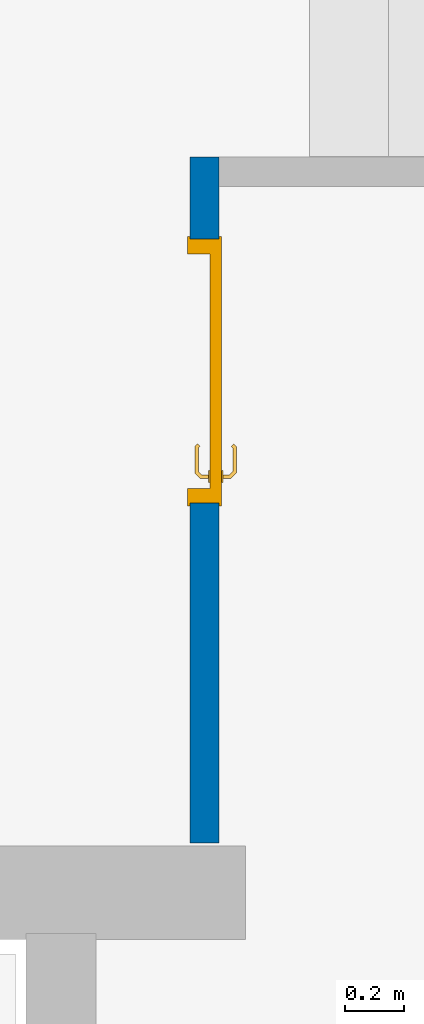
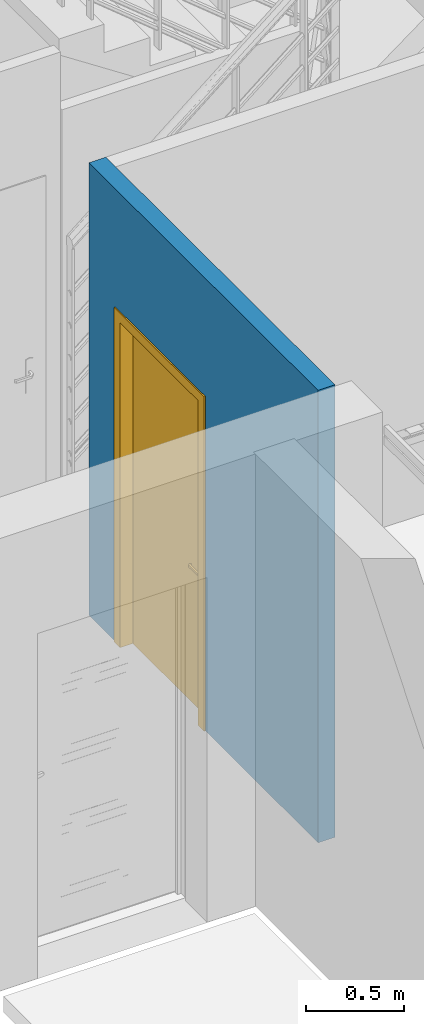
# One storey, part 15 of 30: 1 door, 1 wall, 1 opening.
"""IFC2X3 building model written with IfcOpenShell, lengths in metres."""

from ifc_helpers import new_model, entity, si_unit, converted_unit, derived_unit, direction, frame, frame_2d, origin, place, context, subcontext, project, spatial, rectangle, extrude, faceted_brep, source, transform, mapped, material, material_list, layer, layer_set, layer_usage, type_object, type_shapes, element, fill, save


model = new_model("IFC2X3")

# Units and contexts
model_context = context("Model", 3, precision=1e-05, world=origin(), true_north=direction((6.12303176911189e-17, 1.0)))
body_context = subcontext(model_context, "Body", "Model", "MODEL_VIEW")
ifc_project = project(units=[si_unit("LENGTHUNIT", "METRE"), si_unit("AREAUNIT", "SQUARE_METRE"), si_unit("VOLUMEUNIT", "CUBIC_METRE"), converted_unit("PLANEANGLEUNIT", "DEGREE", entity("IfcRatioMeasure", 0.0174532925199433), si_unit("PLANEANGLEUNIT", "RADIAN"), dimensions=[0, 0, 0, 0, 0, 0, 0]), si_unit("MASSUNIT", "GRAM", prefix="KILO"), derived_unit("MASSDENSITYUNIT", [(si_unit("MASSUNIT", "GRAM", prefix="KILO"), 1), (si_unit("LENGTHUNIT", "METRE"), -3)]), si_unit("TIMEUNIT", "SECOND"), si_unit("FREQUENCYUNIT", "HERTZ"), si_unit("THERMODYNAMICTEMPERATUREUNIT", "DEGREE_CELSIUS"), derived_unit("THERMALTRANSMITTANCEUNIT", [(si_unit("MASSUNIT", "GRAM", prefix="KILO"), 1), (si_unit("THERMODYNAMICTEMPERATUREUNIT", "KELVIN"), -1), (si_unit("TIMEUNIT", "SECOND"), -3)]), derived_unit("VOLUMETRICFLOWRATEUNIT", [(si_unit("LENGTHUNIT", "METRE"), 3), (si_unit("TIMEUNIT", "SECOND"), -1)]), si_unit("ELECTRICCURRENTUNIT", "AMPERE"), si_unit("ELECTRICVOLTAGEUNIT", "VOLT"), si_unit("POWERUNIT", "WATT"), si_unit("FORCEUNIT", "NEWTON", prefix="KILO"), si_unit("ILLUMINANCEUNIT", "LUX"), si_unit("LUMINOUSFLUXUNIT", "LUMEN"), si_unit("LUMINOUSINTENSITYUNIT", "CANDELA"), derived_unit("USERDEFINED", [(si_unit("MASSUNIT", "GRAM", prefix="KILO"), -1), (si_unit("LENGTHUNIT", "METRE"), -2), (si_unit("TIMEUNIT", "SECOND"), 3), (si_unit("LUMINOUSFLUXUNIT", "LUMEN"), 1)]), derived_unit("LINEARVELOCITYUNIT", [(si_unit("LENGTHUNIT", "METRE"), 1), (si_unit("TIMEUNIT", "SECOND"), -1)]), si_unit("PRESSUREUNIT", "PASCAL"), derived_unit("USERDEFINED", [(si_unit("LENGTHUNIT", "METRE"), -2), (si_unit("MASSUNIT", "GRAM", prefix="KILO"), 1), (si_unit("TIMEUNIT", "SECOND"), -2)])], contexts=[model_context])

# Site, building, storey
site_placement = place(None, origin())
site = spatial("IfcSite", under=ifc_project, at=site_placement, Name="Surface", CompositionType="ELEMENT")
building_placement = place(site_placement, origin())
building = spatial("IfcBuilding", under=site, at=building_placement, CompositionType="ELEMENT")
storey_placement = place(building_placement, origin())
storey = spatial("IfcBuildingStorey", under=building, at=storey_placement, Name="Plan des fondations  Maisons 1 et 2", CompositionType="ELEMENT", Elevation=0.0)

# Wall, opening, door
ifc_material_1 = material(Name="Peinture - Blanc")
ifc_layer = layer(ifc_material_1, 0.1)
ifc_layer_set = layer_set([ifc_layer], Name="Mur de base:Int.  Platre 100 mm en blanc 2")
ifc_layer_usage = layer_usage(ifc_layer_set, "AXIS2", "POSITIVE", -0.05)
wall_type = type_object("IfcWallType", Name="Mur de base:Int.  Platre 100 mm en blanc 2", PredefinedType="STANDARD", material=ifc_layer_set)
wall_placement = place(storey_placement, frame((80.7010189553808, 84.2575239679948, 0.0), z_axis=(0.0, 0.0, 1.0), x_axis=(0.0, 1.0, 0.0)))
wall = element("IfcWallStandardCase", 1, at=wall_placement, inside=storey, type_object=wall_type, material=ifc_layer_usage, Name="Mur de base:Int.  Platre 100 mm en blanc 2", ObjectType="Mur de base:Int.  Platre 100 mm en blanc 2", context=body_context, shape_type="SweptSolid", body=[
    extrude(rectangle(XDim=2.33999999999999, YDim=0.100000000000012, at=frame_2d((1.16999999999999, -3.77128883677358e-15), x_axis=(-1.0, 0.0))), origin(), (0.0, 0.0, 1.0), 2.82),
])
opening_placement = place(wall_placement, frame((2.05999999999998, 0.0500000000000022, 0.0)))
opening = element("IfcOpeningElement", 2, at=opening_placement, cuts=wall, Name="FR_Simple (R):83 x 204 - (80):1", ObjectType="Opening", context=body_context, shape_type="SweptSolid", body=[
    extrude(rectangle(XDim=2.075, YDim=0.9, at=frame_2d((1.0375, 0.45), x_axis=(1.0, 0.0))), frame((0.0, 0.0, 0.0), z_axis=(0.0, -1.0, 0.0), x_axis=(0.0, 0.0, 1.0)), (0.0, 0.0, 1.0), 0.1),
])
ifc_material_2 = material(Name="Poignée Porte")
ifc_material_3 = material(Name="Dormants Portes")
ifc_material_4 = material(Name="Panneaux Portes")
ifc_material_list_1 = material_list([ifc_material_2, ifc_material_3, ifc_material_4])
ifc_material_list_2 = material_list([ifc_material_2, ifc_material_3, ifc_material_4])
door_style = type_object("IfcDoorStyle", Name="83 x 204 - (80)", ConstructionType="NOTDEFINED", OperationType="SINGLE_SWING_LEFT", ParameterTakesPrecedence=False, Sizeable=False, material=ifc_material_list_2)
shared_shape = source(origin(), body_context, "Body", "Brep", [
    faceted_brep([(0.1003527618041, -0.0130000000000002, 0.766003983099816), (0.109999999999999, -0.0130000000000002, 0.770000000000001), (0.109999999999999, -0.0130000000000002, 0.980000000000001), (0.1003527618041, -0.0130000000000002, 0.983996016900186), (0.0899999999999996, -0.0130000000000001, 0.985358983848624), (0.0796472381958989, -0.0130000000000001, 0.983996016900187), (0.0699999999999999, -0.0130000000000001, 0.980000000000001), (0.0699999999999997, -0.0130000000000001, 0.770000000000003), (0.0796472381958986, -0.0130000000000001, 0.766003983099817), (0.0899999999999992, -0.0130000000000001, 0.764641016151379), (0.1003527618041, -0.00800000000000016, 0.983996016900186), (0.109999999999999, -0.00800000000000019, 0.980000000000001), (0.109999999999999, -0.00800000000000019, 0.770000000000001), (0.1003527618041, -0.00800000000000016, 0.766003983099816), (0.0899999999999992, -0.00800000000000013, 0.764641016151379), (0.0796472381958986, -0.00800000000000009, 0.766003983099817), (0.0699999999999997, -0.00800000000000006, 0.770000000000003), (0.0699999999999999, -0.00800000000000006, 0.980000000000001), (0.0796472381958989, -0.00800000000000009, 0.983996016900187), (0.0899999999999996, -0.00800000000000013, 0.985358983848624)], [[[0, 1, 2, 3, 4, 5, 6, 7, 8, 9]], [[10, 11, 12, 13, 14, 15, 16, 17, 18, 19]], [[16, 15, 8, 7]], [[8, 15, 14, 9]], [[14, 13, 0, 9]], [[13, 12, 1, 0]], [[2, 1, 12, 11]], [[11, 10, 3, 2]], [[3, 10, 19, 4]], [[19, 18, 5, 4]], [[18, 17, 6, 5]], [[7, 6, 17, 16]]]),
    faceted_brep([(0.1003527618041, 0.0319999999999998, 0.766003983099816), (0.109999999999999, 0.0319999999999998, 0.770000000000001), (0.109999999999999, 0.0319999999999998, 0.980000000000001), (0.1003527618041, 0.0319999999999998, 0.983996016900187), (0.0899999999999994, 0.0319999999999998, 0.985358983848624), (0.0796472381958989, 0.0319999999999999, 0.983996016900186), (0.0699999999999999, 0.0319999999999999, 0.980000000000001), (0.0700000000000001, 0.0319999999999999, 0.770000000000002), (0.0796472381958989, 0.0319999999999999, 0.766003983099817), (0.0899999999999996, 0.0319999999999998, 0.764641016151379), (0.1003527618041, 0.0369999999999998, 0.983996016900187), (0.109999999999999, 0.0369999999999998, 0.980000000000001), (0.11, 0.0369999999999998, 0.770000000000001), (0.1003527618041, 0.0369999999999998, 0.766003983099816), (0.0899999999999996, 0.0369999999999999, 0.764641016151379), (0.079647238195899, 0.0369999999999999, 0.766003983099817), (0.0699999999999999, 0.0369999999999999, 0.770000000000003), (0.0699999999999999, 0.0369999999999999, 0.980000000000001), (0.0796472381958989, 0.0369999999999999, 0.983996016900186), (0.0899999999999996, 0.0369999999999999, 0.985358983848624)], [[[0, 1, 2, 3, 4, 5, 6, 7, 8, 9]], [[10, 11, 12, 13, 14, 15, 16, 17, 18, 19]], [[11, 10, 3, 2]], [[3, 10, 19, 4]], [[19, 18, 5, 4]], [[18, 17, 6, 5]], [[7, 6, 17, 16]], [[16, 15, 8, 7]], [[8, 15, 14, 9]], [[14, 13, 0, 9]], [[13, 12, 1, 0]], [[2, 1, 12, 11]]]),
    faceted_brep([(0.0879747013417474, -0.0130000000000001, 0.907780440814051), (0.092025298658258, -0.0130000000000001, 0.907780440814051), (0.0960000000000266, -0.0130000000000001, 0.906999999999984), (0.0960000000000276, -0.0130000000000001, 0.893000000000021), (0.0920252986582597, -0.0130000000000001, 0.89221955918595), (0.0879747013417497, -0.0130000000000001, 0.892219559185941), (0.0839999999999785, -0.0130000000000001, 0.892999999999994), (0.0839999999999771, -0.0130000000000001, 0.90699999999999), (0.0839999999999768, -0.0406509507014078, 0.906999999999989), (0.0879747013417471, -0.0390045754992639, 0.907780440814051), (0.10402358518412, -0.0550534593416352, 0.907780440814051), (0.10570139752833, -0.0510028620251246, 0.907780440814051), (0.0920252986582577, -0.0373267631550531, 0.907780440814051), (0.19852181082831, -0.0473891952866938, 0.90778044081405), (0.195657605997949, -0.0445249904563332, 0.90778044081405), (0.189179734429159, -0.0510028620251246, 0.90778044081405), (0.19085754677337, -0.0550534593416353, 0.90778044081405), (0.096000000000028, -0.0356803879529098, 0.90699999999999), (0.0960000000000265, -0.0356803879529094, 0.893000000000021), (0.0920252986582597, -0.0373267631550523, 0.89221955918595), (0.105701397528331, -0.0510028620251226, 0.89221955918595), (0.104023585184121, -0.0550534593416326, 0.89221955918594), (0.0879747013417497, -0.0390045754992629, 0.89221955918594), (0.195657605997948, -0.044524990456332, 0.89221955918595), (0.198521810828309, -0.0473891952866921, 0.89221955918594), (0.190857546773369, -0.0550534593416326, 0.89221955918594), (0.189179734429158, -0.0510028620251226, 0.89221955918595), (0.0839999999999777, -0.0406509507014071, 0.892999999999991), (0.102377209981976, -0.0590281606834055, 0.906999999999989), (0.107347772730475, -0.0470281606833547, 0.90699999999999), (0.107347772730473, -0.0470281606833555, 0.893000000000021), (0.102377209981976, -0.0590281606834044, 0.892999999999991), (0.142307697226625, -0.0590281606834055, 0.906999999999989), (0.147440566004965, -0.053182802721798, 0.907878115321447), (0.192503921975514, -0.0590281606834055, 0.906999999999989), (0.147440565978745, -0.0470281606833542, 0.90699999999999), (0.187533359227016, -0.0470281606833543, 0.906999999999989), (0.187533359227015, -0.0470281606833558, 0.89300000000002), (0.147440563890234, -0.0470281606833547, 0.893000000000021), (0.14744056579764, -0.0531828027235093, 0.892121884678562), (0.192503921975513, -0.0590281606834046, 0.892999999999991), (0.152573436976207, -0.0590281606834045, 0.892999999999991), (0.192847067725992, -0.0417144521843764, 0.906999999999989), (0.201332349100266, -0.0501997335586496, 0.906999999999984), (0.201332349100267, -0.0501997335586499, 0.892999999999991), (0.192847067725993, -0.0417144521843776, 0.893000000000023)], [[[0, 1, 2, 3, 4, 5, 6, 7]], [[8, 9, 0, 7]], [[9, 10, 11, 12, 1, 0]], [[13, 14, 15, 16]], [[12, 17, 2, 1]], [[3, 2, 17, 18]], [[18, 19, 4, 3]], [[19, 20, 21, 22, 5, 4]], [[23, 24, 25, 26]], [[22, 27, 6, 5]], [[7, 6, 27, 8]], [[28, 10, 9, 8]], [[11, 29, 17, 12]], [[18, 17, 29, 30]], [[30, 20, 19, 18]], [[21, 31, 27, 22]], [[8, 27, 31, 28]], [[32, 33, 10]], [[33, 32, 16]], [[10, 28, 32]], [[34, 16, 32]], [[33, 35, 11]], [[11, 10, 33]], [[15, 35, 33]], [[29, 11, 35]], [[35, 15, 36]], [[15, 33, 16]], [[30, 29, 35, 36, 37, 38]], [[20, 38, 39]], [[25, 40, 41]], [[31, 21, 41]], [[41, 21, 39]], [[39, 38, 26]], [[26, 25, 39]], [[38, 20, 30]], [[37, 26, 38]], [[20, 39, 21]], [[41, 39, 25]], [[28, 31, 41, 40, 34, 32]], [[42, 14, 13, 43, 44, 24, 23, 45]], [[43, 13, 16, 34]], [[14, 42, 36, 15]], [[37, 36, 42, 45]], [[45, 23, 26, 37]], [[24, 44, 40, 25]], [[34, 40, 44, 43]]]),
    faceted_brep([(0.0879747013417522, 0.0369999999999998, 0.892219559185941), (0.0920252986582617, 0.0369999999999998, 0.892219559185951), (0.0960000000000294, 0.0369999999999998, 0.893000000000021), (0.0960000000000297, 0.0369999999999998, 0.90699999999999), (0.0920252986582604, 0.0369999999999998, 0.907780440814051), (0.0879747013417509, 0.0369999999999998, 0.907780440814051), (0.0839999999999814, 0.0369999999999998, 0.90699999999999), (0.083999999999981, 0.0369999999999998, 0.892999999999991), (0.0960000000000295, 0.0594852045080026, 0.893000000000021), (0.0960000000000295, 0.0594852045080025, 0.90699999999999), (0.0920252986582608, 0.0611315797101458, 0.907780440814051), (0.105838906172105, 0.0749451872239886, 0.907780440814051), (0.104161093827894, 0.0789957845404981, 0.907780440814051), (0.0879747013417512, 0.0628093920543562, 0.907780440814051), (0.195684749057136, 0.0684673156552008, 0.907780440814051), (0.198548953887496, 0.071331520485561, 0.907780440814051), (0.190884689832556, 0.0789957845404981, 0.907780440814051), (0.189206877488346, 0.0749451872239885, 0.907780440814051), (0.0839999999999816, 0.0644557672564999, 0.90699999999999), (0.0839999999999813, 0.0644557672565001, 0.892999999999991), (0.0879747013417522, 0.0628093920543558, 0.892219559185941), (0.104161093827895, 0.0789957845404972, 0.892219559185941), (0.105838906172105, 0.0749451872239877, 0.892219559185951), (0.0920252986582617, 0.0611315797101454, 0.892219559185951), (0.198548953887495, 0.07133152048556, 0.89221955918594), (0.195684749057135, 0.0684673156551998, 0.89221955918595), (0.189206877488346, 0.0749451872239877, 0.89221955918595), (0.190884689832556, 0.0789957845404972, 0.89221955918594), (0.107485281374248, 0.0709704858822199, 0.893000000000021), (0.107485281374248, 0.0709704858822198, 0.90699999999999), (0.102514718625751, 0.0829704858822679, 0.90699999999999), (0.102514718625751, 0.0829704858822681, 0.892999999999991), (0.147522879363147, 0.0709704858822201, 0.89300000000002), (0.187560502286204, 0.0709704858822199, 0.89300000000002), (0.187560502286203, 0.0709704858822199, 0.90699999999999), (0.147522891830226, 0.0709704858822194, 0.90699999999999), (0.147522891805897, 0.0771249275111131, 0.907878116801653), (0.1925310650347, 0.0829704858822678, 0.90699999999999), (0.152600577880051, 0.0829704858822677, 0.90699999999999), (0.1925310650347, 0.082970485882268, 0.892999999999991), (0.142445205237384, 0.0829704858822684, 0.892999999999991), (0.147522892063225, 0.0771249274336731, 0.892121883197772), (0.19287421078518, 0.0656567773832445, 0.89300000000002), (0.201359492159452, 0.0741420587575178, 0.892999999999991), (0.201359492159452, 0.0741420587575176, 0.90699999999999), (0.19287421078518, 0.0656567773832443, 0.90699999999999)], [[[0, 1, 2, 3, 4, 5, 6, 7]], [[3, 2, 8, 9]], [[9, 10, 4, 3]], [[10, 11, 12, 13, 5, 4]], [[14, 15, 16, 17]], [[13, 18, 6, 5]], [[7, 6, 18, 19]], [[19, 20, 0, 7]], [[20, 21, 22, 23, 1, 0]], [[24, 25, 26, 27]], [[23, 8, 2, 1]], [[9, 8, 28, 29]], [[29, 11, 10, 9]], [[12, 30, 18, 13]], [[19, 18, 30, 31]], [[31, 21, 20, 19]], [[22, 28, 8, 23]], [[28, 32, 33, 34, 35, 29]], [[11, 35, 36]], [[16, 37, 38]], [[30, 12, 38]], [[38, 12, 36]], [[36, 35, 17]], [[17, 16, 36]], [[35, 11, 29]], [[34, 17, 35]], [[11, 36, 12]], [[38, 36, 16]], [[31, 30, 38, 37, 39, 40]], [[40, 41, 21]], [[41, 40, 27]], [[21, 31, 40]], [[39, 27, 40]], [[41, 32, 22]], [[22, 21, 41]], [[26, 32, 41]], [[28, 22, 32]], [[32, 26, 33]], [[26, 41, 27]], [[42, 25, 24, 43, 44, 15, 14, 45]], [[34, 33, 42, 45]], [[45, 14, 17, 34]], [[15, 44, 37, 16]], [[39, 37, 44, 43]], [[43, 24, 27, 39]], [[25, 42, 33, 26]]]),
    faceted_brep([(0.0, 0.0, 0.0), (0.0, 0.10000000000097, 0.0), (-0.00999999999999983, 0.10000000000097, 0.0), (-0.00999999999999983, 0.108000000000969, 0.0), (0.0499999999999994, 0.108000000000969, 0.0), (0.0499999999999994, 0.032, 0.0), (0.0349999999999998, 0.032, 0.0), (0.0349999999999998, -0.00799999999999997, 0.0), (-0.00999999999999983, -0.00799999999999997, 0.0), (-0.00999999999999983, 0.0, 0.0), (0.0, 0.0, 2.075), (0.0, 0.10000000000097, 2.075), (0.9, 0.10000000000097, 2.075), (0.9, 0.10000000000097, 0.0), (0.91, 0.10000000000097, 0.0), (0.91, 0.10000000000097, 2.085), (-0.00999999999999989, 0.10000000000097, 2.085), (-0.00999999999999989, 0.108000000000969, 2.085), (0.91, 0.108000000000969, 2.085), (0.91, 0.108000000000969, 0.0), (0.850000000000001, 0.108000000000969, 0.0), (0.850000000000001, 0.108000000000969, 2.025), (0.0499999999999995, 0.108000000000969, 2.025), (0.0499999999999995, 0.032, 2.025), (0.850000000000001, 0.032, 2.025), (0.850000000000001, 0.032, 0.0), (0.865, 0.032, 0.0), (0.865, 0.032, 2.04), (0.0349999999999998, 0.032, 2.04), (0.0349999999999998, -0.00799999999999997, 2.04), (0.865, -0.00799999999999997, 2.04), (0.865, -0.00799999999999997, 0.0), (0.91, -0.00799999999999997, 0.0), (0.91, -0.00799999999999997, 2.085), (-0.00999999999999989, -0.00799999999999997, 2.085), (-0.00999999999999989, 0.0, 2.085), (0.91, 0.0, 2.085), (0.91, 0.0, 0.0), (0.9, 0.0, 0.0), (0.9, 0.0, 2.075)], [[[0, 1, 2, 3, 4, 5, 6, 7, 8, 9]], [[1, 0, 10, 11]], [[2, 1, 11, 12, 13, 14, 15, 16]], [[3, 2, 16, 17]], [[4, 3, 17, 18, 19, 20, 21, 22]], [[5, 4, 22, 23]], [[6, 5, 23, 24, 25, 26, 27, 28]], [[7, 6, 28, 29]], [[8, 7, 29, 30, 31, 32, 33, 34]], [[9, 8, 34, 35]], [[0, 9, 35, 36, 37, 38, 39, 10]], [[11, 10, 39, 12]], [[17, 16, 15, 18]], [[23, 22, 21, 24]], [[29, 28, 27, 30]], [[35, 34, 33, 36]], [[38, 37, 32, 31, 26, 25, 20, 19, 14, 13]], [[12, 39, 38, 13]], [[18, 15, 14, 19]], [[24, 21, 20, 25]], [[30, 27, 26, 31]], [[36, 33, 32, 37]]]),
    faceted_brep([(0.0349999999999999, -0.00799999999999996, 2.04), (0.0349999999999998, -0.00799999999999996, 0.0), (0.865, -0.00799999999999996, 0.0), (0.865, -0.00799999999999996, 2.04), (0.0349999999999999, 0.032, 2.04), (0.865, 0.032, 2.04), (0.865, 0.032, 0.0), (0.0349999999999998, 0.032, 0.0)], [[[0, 1, 2, 3]], [[4, 5, 6, 7]], [[1, 0, 4, 7]], [[2, 1, 7, 6]], [[3, 2, 6, 5]], [[0, 3, 5, 4]]]),
])
type_shapes(door_style, [shared_shape])
door_placement = place(opening_placement, frame((-0.900000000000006, -0.100000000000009, 0.0)))
door = element("IfcDoor", 3, at=door_placement, inside=storey, type_object=door_style, material=ifc_material_list_1, Name="FR_Simple (R):83 x 204 - (80)", ObjectType="FR_Simple (R):83 x 204 - (80)", OverallHeight=2.075, OverallWidth=0.900000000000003, context=body_context, shape_type="MappedRepresentation", body=[
    mapped(shared_shape, transform((0.0, 0.0, 0.0), scale=1.0)),
])
fill(opening, door)

save(model, "model.ifc")
